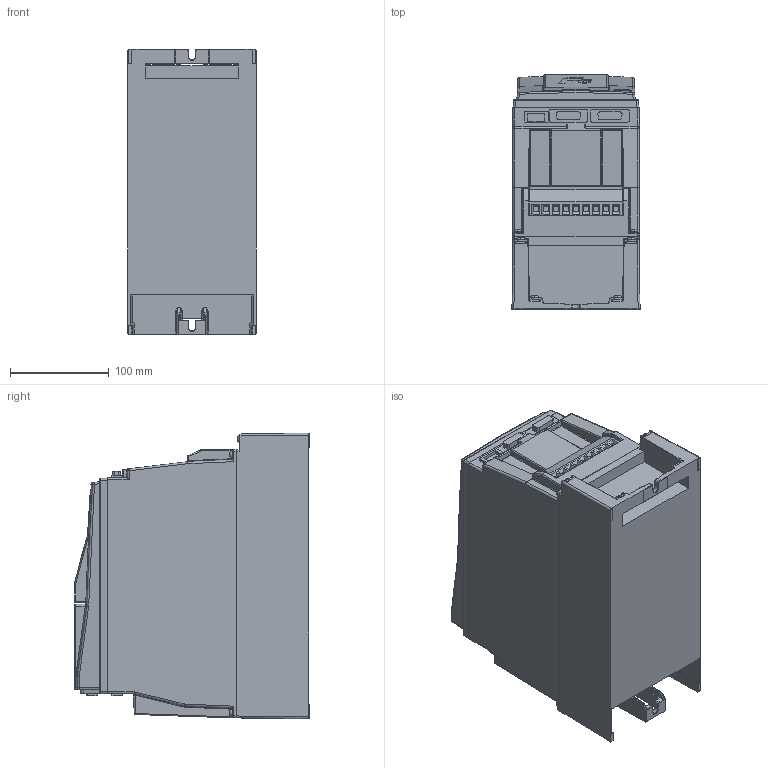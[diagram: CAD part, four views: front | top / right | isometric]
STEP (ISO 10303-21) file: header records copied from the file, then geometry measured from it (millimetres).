
FILE_DESCRIPTION (( 'STEP AP214' ), '1' );
FILE_NAME ('F6-2TR0-P150.STEP', '2020-11-30T11:19:20', ( '' ), ( '' ), 'SwSTEP 2.0', 'SolidWorks 2019', '' );
FILE_SCHEMA (( 'AUTOMOTIVE_DESIGN' ));
Length unit declared in the file: millimetre
Products named in the file (1): F6-2TR0-P150
Bounding box: 130 x 238.4 x 290 mm (x, y, z)
Volume: 7041280.9 mm3; surface area: 299643.5 mm2
Topology: 2 solids, 2 shells, 1326 faces, 3301 edges, 1957 vertices
Faces by surface type: plane 560, cylinder 382, bspline 245, sphere 60, torus 55, cone 24
Entity records: 46857 total; most frequent: CARTESIAN_POINT 17781, ORIENTED_EDGE 6458, DIRECTION 5441, EDGE_CURVE 3229, VERTEX_POINT 1957, AXIS2_PLACEMENT_3D 1846, LINE 1749, VECTOR 1749
